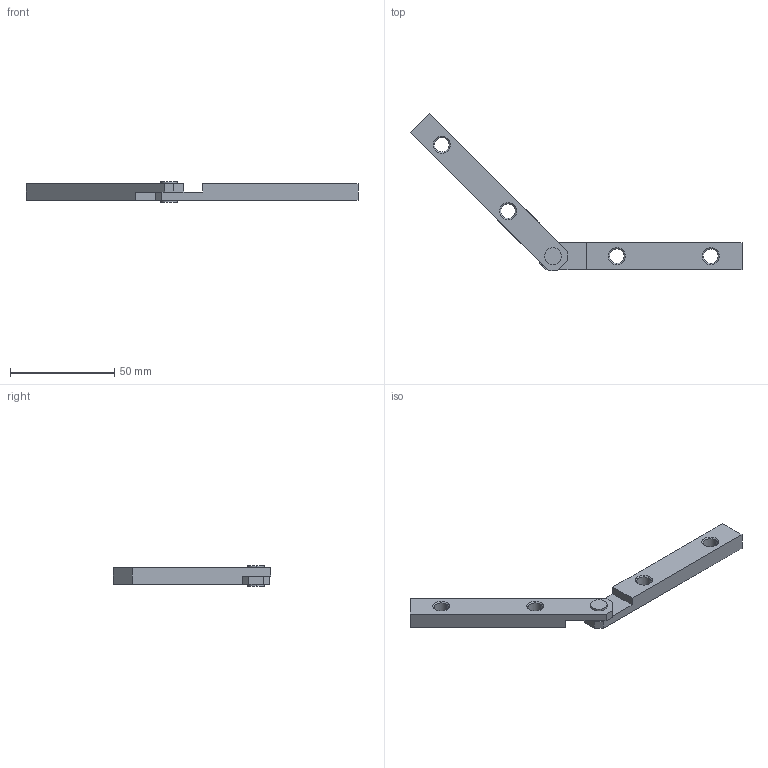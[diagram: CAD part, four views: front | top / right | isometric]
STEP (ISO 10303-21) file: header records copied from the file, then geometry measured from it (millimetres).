
FILE_DESCRIPTION (( 'STEP AP214' ), '1' );
FILE_NAME ('SF01022.step', '2024-12-03T16:29:34', ( '' ), ( '' ), 'SwSTEP 2.0', 'SolidWorks 2023', '' );
FILE_SCHEMA (( 'AUTOMOTIVE_DESIGN' ));
Length unit declared in the file: millimetre
Products named in the file (1): SF01022
Bounding box: 159.09 x 75.66 x 10 mm (x, y, z)
Volume: 16605 mm3; surface area: 8241.5 mm2
Topology: 1 solids, 1 shells, 52 faces, 124 edges, 76 vertices
Faces by surface type: plane 24, cone 16, cylinder 12
Entity records: 1527 total; most frequent: DIRECTION 270, CARTESIAN_POINT 253, ORIENTED_EDGE 248, EDGE_CURVE 124, AXIS2_PLACEMENT_3D 93, LINE 84, VECTOR 84, VERTEX_POINT 76
